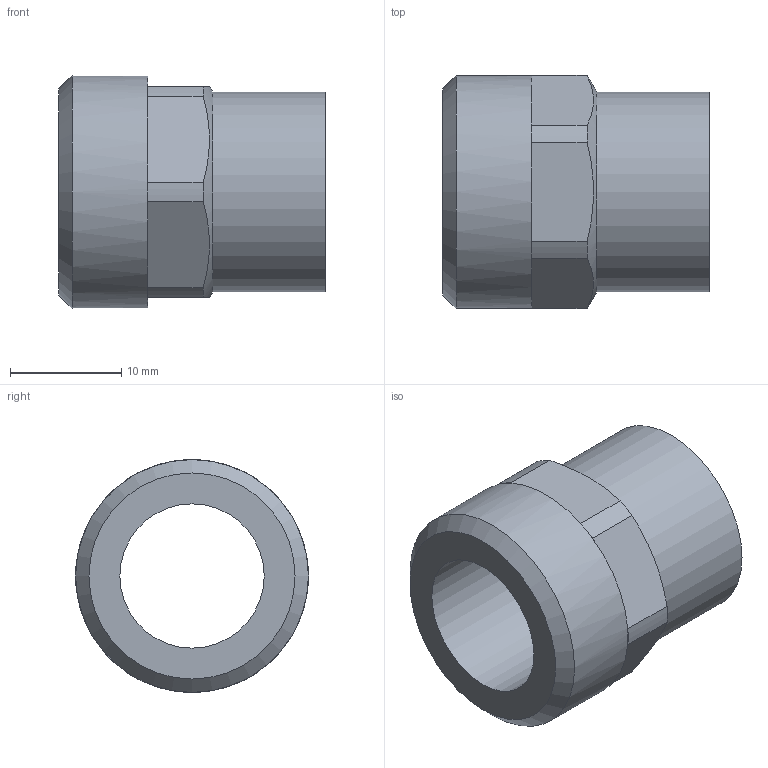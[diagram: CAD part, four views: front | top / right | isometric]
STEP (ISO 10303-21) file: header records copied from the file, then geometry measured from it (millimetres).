
FILE_DESCRIPTION((''),'2;1');
FILE_NAME('\\Lg50001\groups\SANHA Legnica\Engineering\Public\RYSUNKI\SANHA POLSKA\4370\STEP\14370_15-12(0).stp','2010-03-31T10:19:14',('pajchrowski'),(''),'Autodesk Inventor 2009','Autodesk Inventor 2009','');
FILE_SCHEMA(('AUTOMOTIVE_DESIGN { 1 0 10303 214 1 1 1 1 }'));
Length unit declared in the file: millimetre
Products named in the file (1): 14370_15-12(1)
Bounding box: 24 x 21 x 20.96 mm (x, y, z)
Volume: 3426.2 mm3; surface area: 2876.1 mm2
Topology: 1 solids, 1 shells, 33 faces, 76 edges, 46 vertices
Faces by surface type: plane 21, cylinder 10, cone 2
Full cylindrical faces by diameter (mm): 13 x1, 15 x1, 18 x1, 20.96 x1
Entity records: 906 total; most frequent: DIRECTION 162, CARTESIAN_POINT 158, ORIENTED_EDGE 136, EDGE_CURVE 68, AXIS2_PLACEMENT_3D 66, VERTEX_POINT 44, EDGE_LOOP 42, FACE_OUTER_BOUND 33
